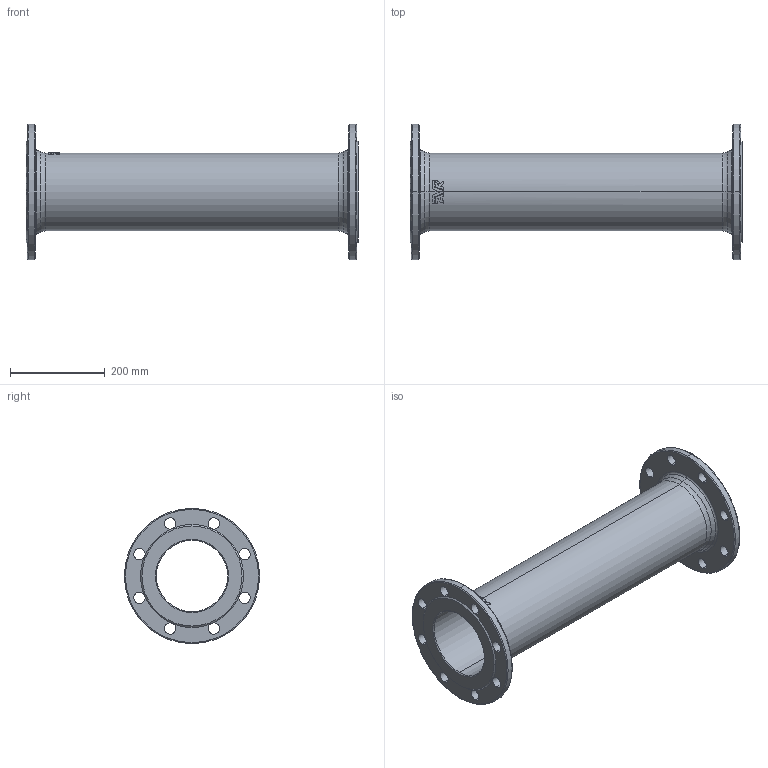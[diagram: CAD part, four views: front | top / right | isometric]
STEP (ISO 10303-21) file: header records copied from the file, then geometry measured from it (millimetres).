
FILE_DESCRIPTION (( 'STEP AP203' ), '1' );
FILE_NAME ('O_712_5010_DN150_1X_REV01.step', '2021-12-03T09:46:32', ( '' ), ( '' ), 'SwSTEP 2.0', 'SolidWorks 2019', '' );
FILE_SCHEMA (( 'CONFIG_CONTROL_DESIGN' ));
Length unit declared in the file: millimetre
Products named in the file (1): O_712_5010_DN150_1X_REV01
Bounding box: 700 x 285 x 285 mm (x, y, z)
Volume: 3828944.7 mm3; surface area: 873235.5 mm2
Topology: 1 solids, 1 shells, 116 faces, 343 edges, 220 vertices
Faces by surface type: cylinder 45, plane 26, bspline 17, torus 16, cone 12
Entity records: 4850 total; most frequent: CARTESIAN_POINT 1583, DIRECTION 687, ORIENTED_EDGE 686, EDGE_CURVE 343, AXIS2_PLACEMENT_3D 294, VERTEX_POINT 220, CIRCLE 194, EDGE_LOOP 141
